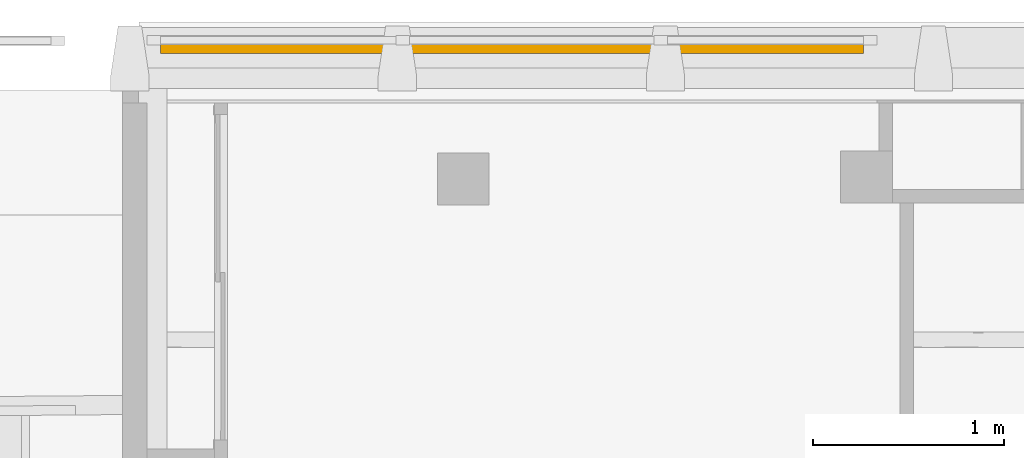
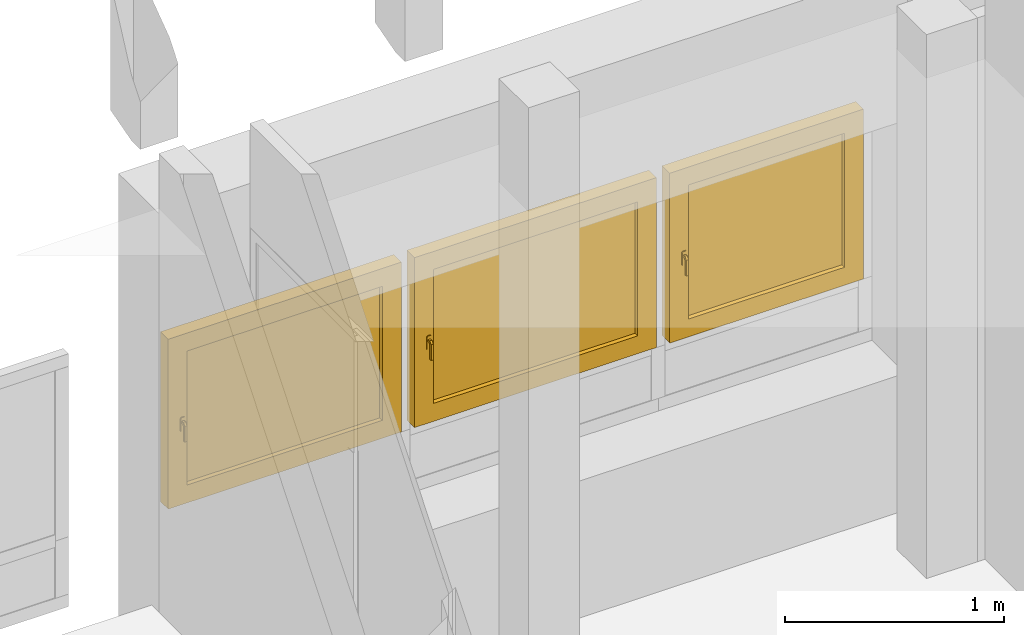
# One storey, part 53 of 65: 3 windows, 1 element without a shape of its own.
"""IFC4 building model written with IfcOpenShell, lengths in metres."""

from ifc_helpers import new_model, entity, si_unit, converted_unit, derived_unit, direction, frame, origin, place, context, subcontext, project, spatial, polygons, source, transform, mapped, material, material_list, constituent, constituent_set, type_object, type_shapes, element, aggregate, save


model = new_model("IFC4")

# Units and contexts
model_context = context("Model", 3, precision=1e-05, world=origin(), true_north=direction((6.12303176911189e-17, 1.0)))
body_context = subcontext(model_context, "Body", "Model", "MODEL_VIEW")
ifc_project = project(units=[si_unit("LENGTHUNIT", "METRE"), si_unit("AREAUNIT", "SQUARE_METRE"), si_unit("VOLUMEUNIT", "CUBIC_METRE"), converted_unit("PLANEANGLEUNIT", "DEGREE", entity("IfcRatioMeasure", 0.0174532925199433), si_unit("PLANEANGLEUNIT", "RADIAN"), dimensions=[0, 0, 0, 0, 0, 0, 0]), si_unit("MASSUNIT", "GRAM", prefix="KILO"), derived_unit("MASSDENSITYUNIT", [(si_unit("MASSUNIT", "GRAM", prefix="KILO"), 1), (si_unit("LENGTHUNIT", "METRE"), -3)]), derived_unit("MOMENTOFINERTIAUNIT", [(si_unit("LENGTHUNIT", "METRE"), 4)]), si_unit("TIMEUNIT", "SECOND"), si_unit("FREQUENCYUNIT", "HERTZ"), si_unit("THERMODYNAMICTEMPERATUREUNIT", "DEGREE_CELSIUS"), derived_unit("THERMALTRANSMITTANCEUNIT", [(si_unit("MASSUNIT", "GRAM", prefix="KILO"), 1), (si_unit("THERMODYNAMICTEMPERATUREUNIT", "KELVIN"), -1), (si_unit("TIMEUNIT", "SECOND"), -3)]), derived_unit("VOLUMETRICFLOWRATEUNIT", [(si_unit("LENGTHUNIT", "METRE"), 3), (si_unit("TIMEUNIT", "SECOND"), -1)]), si_unit("ELECTRICCURRENTUNIT", "AMPERE"), si_unit("ELECTRICVOLTAGEUNIT", "VOLT"), si_unit("POWERUNIT", "WATT"), si_unit("FORCEUNIT", "NEWTON", prefix="KILO"), si_unit("ILLUMINANCEUNIT", "LUX"), si_unit("LUMINOUSFLUXUNIT", "LUMEN"), si_unit("LUMINOUSINTENSITYUNIT", "CANDELA"), derived_unit("USERDEFINED", [(si_unit("MASSUNIT", "GRAM", prefix="KILO"), -1), (si_unit("LENGTHUNIT", "METRE"), -2), (si_unit("TIMEUNIT", "SECOND"), 3), (si_unit("LUMINOUSFLUXUNIT", "LUMEN"), 1)]), derived_unit("LINEARVELOCITYUNIT", [(si_unit("LENGTHUNIT", "METRE"), 1), (si_unit("TIMEUNIT", "SECOND"), -1)]), si_unit("PRESSUREUNIT", "PASCAL"), derived_unit("USERDEFINED", [(si_unit("LENGTHUNIT", "METRE"), -2), (si_unit("MASSUNIT", "GRAM", prefix="KILO"), 1), (si_unit("TIMEUNIT", "SECOND"), -2)]), derived_unit("LINEARFORCEUNIT", [(si_unit("MASSUNIT", "GRAM", prefix="KILO"), 1), (si_unit("LENGTHUNIT", "METRE"), 1), (si_unit("TIMEUNIT", "SECOND"), -2), (si_unit("LENGTHUNIT", "METRE"), -1)]), derived_unit("PLANARFORCEUNIT", [(si_unit("MASSUNIT", "GRAM", prefix="KILO"), 1), (si_unit("LENGTHUNIT", "METRE"), 1), (si_unit("TIMEUNIT", "SECOND"), -2), (si_unit("LENGTHUNIT", "METRE"), -2)])], contexts=[model_context])

# Site, building, storey
site_placement = place(None, origin())
site = spatial("IfcSite", under=ifc_project, at=site_placement, Name="Default", CompositionType="ELEMENT")
building_placement = place(site_placement, origin())
building = spatial("IfcBuilding", under=site, at=building_placement, Name="HOTEL CONSULAIRE BOULOGNE SUR MER", CompositionType="ELEMENT")
storey_placement = place(building_placement, origin())
storey = spatial("IfcBuildingStorey", under=building, at=storey_placement, Name="Niveau 0", CompositionType="ELEMENT", Elevation=1.31981936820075e-13)

# Curtain wall, windows
curtain_wall_type = type_object("IfcCurtainWallType", Name="Mur-rideau:Simple panneau", PredefinedType="NOTDEFINED")
curtain_wall_placement = place(storey_placement, origin())
curtain_wall = element("IfcCurtainWall", 1, at=curtain_wall_placement, inside=storey, type_object=curtain_wall_type, Name="Mur-rideau:Simple panneau", ObjectType="Mur-rideau:Simple panneau", PredefinedType="NOTDEFINED")
ifc_material_1 = material(Name="PVC - Blanc", Category="Plastique")
ifc_constituent_1 = constituent(ifc_material_1, Name="PVC - Blanc", Category="Matériaux")
ifc_material_2 = material(Name="Fenêtre - Vitrage", Category="Verre")
ifc_constituent_2 = constituent(ifc_material_2, Name="Fenêtre - Vitrage", Category="Matériaux")
ifc_constituent_set_1 = constituent_set(constituents=[ifc_constituent_1, ifc_constituent_2], Name="MaterialConstituentSet")
ifc_material_list_1 = material_list([ifc_material_1, ifc_material_1])
window_type_1 = type_object("IfcWindowType", Name="MR 1 Vantail:MR 1 Vantail", PartitioningType="NOTDEFINED", PredefinedType="WINDOW", material=ifc_material_list_1)
shared_shape_1 = source(origin(), body_context, "Body", "Tessellation", [
    polygons([(-0.545968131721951, -0.0492408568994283, 0.472033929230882), (-0.534676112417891, -0.0492408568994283, 0.472033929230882), (-0.533288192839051, -0.0492408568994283, 0.470646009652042), (-0.533288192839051, -0.0492408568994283, 0.459332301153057), (-0.534654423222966, -0.0492408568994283, 0.457966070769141), (-0.545989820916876, -0.0492408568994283, 0.457966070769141), (-0.547356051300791, -0.0492408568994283, 0.459332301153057), (-0.547356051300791, -0.0492408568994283, 0.470646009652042), (-0.547356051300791, -0.0615795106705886, 0.470646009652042), (-0.545968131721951, -0.0621544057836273, 0.472033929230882), (-0.547356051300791, -0.0568932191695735, 0.459332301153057), (-0.547356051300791, -0.0635731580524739, 0.452652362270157), (-0.547356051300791, -0.0635731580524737, 0.370000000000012), (-0.547356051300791, -0.0748868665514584, 0.370000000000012), (-0.547356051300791, -0.0748868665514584, 0.457338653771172), (-0.545989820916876, -0.0563273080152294, 0.457966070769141), (-0.534654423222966, -0.0563273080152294, 0.457966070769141), (-0.533288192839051, -0.0568932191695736, 0.459332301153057), (-0.533288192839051, -0.0615795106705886, 0.470646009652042), (-0.533288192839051, -0.0748868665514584, 0.457338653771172), (-0.533288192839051, -0.0748868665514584, 0.370000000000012), (-0.533288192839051, -0.063573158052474, 0.370000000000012), (-0.533288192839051, -0.0635731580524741, 0.452652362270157), (-0.534676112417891, -0.0621544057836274, 0.472033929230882), (-0.545968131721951, -0.0762747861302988, 0.457913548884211), (-0.545989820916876, -0.0622069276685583, 0.452086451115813), (-0.534654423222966, -0.0622069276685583, 0.452086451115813), (-0.534676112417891, -0.0762747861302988, 0.457913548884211), (-0.545968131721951, -0.0762747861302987, 0.370000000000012), (-0.545989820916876, -0.0622069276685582, 0.370000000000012), (-0.534654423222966, -0.0622069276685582, 0.370000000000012), (-0.534676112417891, -0.0762747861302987, 0.370000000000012)], [[[6, 7, 8, 1, 2, 3, 4, 5]], [[30, 26, 27, 31]], [[9, 10, 1, 8]], [[11, 12, 13, 14, 15, 9, 8, 7]], [[16, 11, 7, 6]], [[16, 6, 5, 17]], [[31, 22, 21, 32, 29, 14, 13, 30]], [[17, 5, 4, 18]], [[3, 19, 20, 21, 22, 23, 18, 4]], [[19, 3, 2, 24]], [[24, 2, 1, 10]], [[15, 25, 10, 9]], [[26, 12, 11, 16]], [[27, 26, 16, 17]], [[27, 17, 18, 23]], [[20, 19, 24, 28]], [[28, 24, 10, 25]], [[29, 25, 15, 14]], [[13, 12, 26, 30]], [[22, 31, 27, 23]], [[32, 21, 20, 28]], [[32, 28, 25, 29]]], closed=True),
    polygons([(-0.547322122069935, -0.0432408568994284, 0.490000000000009), (-0.53332212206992, -0.0432408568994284, 0.490000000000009), (-0.52832212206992, -0.0432408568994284, 0.48500000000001), (-0.52832212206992, -0.0432408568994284, 0.414999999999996), (-0.533322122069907, -0.0432408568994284, 0.410000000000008), (-0.547322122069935, -0.0432408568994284, 0.410000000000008), (-0.552322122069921, -0.0432408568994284, 0.414999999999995), (-0.552322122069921, -0.0432408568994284, 0.48500000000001), (-0.547322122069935, -0.0492408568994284, 0.490000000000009), (-0.552322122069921, -0.0492408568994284, 0.48500000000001), (-0.552322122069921, -0.0492408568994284, 0.414999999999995), (-0.547322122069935, -0.0492408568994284, 0.410000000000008), (-0.533322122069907, -0.0492408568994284, 0.410000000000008), (-0.52832212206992, -0.0492408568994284, 0.414999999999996), (-0.52832212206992, -0.0492408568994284, 0.48500000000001), (-0.53332212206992, -0.0492408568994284, 0.490000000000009)], [[[2, 3, 4, 5, 6, 7, 8, 1]], [[13, 14, 15, 16, 9, 10, 11, 12]], [[9, 1, 8, 10]], [[10, 8, 7, 11]], [[11, 7, 6, 12]], [[12, 6, 5, 13]], [[13, 5, 4, 14]], [[15, 14, 4, 3]], [[15, 3, 2, 16]], [[16, 2, 1, 9]]], closed=True),
    polygons([(0.515322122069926, -0.0192408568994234, 0.84826605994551), (-0.515322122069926, -0.0192408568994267, 0.84826605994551), (-0.515322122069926, -0.0192408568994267, 0.0999999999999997), (0.515322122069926, -0.0192408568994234, 0.0999999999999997), (0.515322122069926, -0.00724085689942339, 0.84826605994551), (0.515322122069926, -0.00724085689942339, 0.0999999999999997), (-0.515322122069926, -0.00724085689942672, 0.0999999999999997), (-0.515322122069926, -0.00724085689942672, 0.84826605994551)], [[[4, 1, 2, 3]], [[7, 8, 5, 6]], [[2, 1, 5, 8]], [[3, 2, 8, 7]], [[4, 3, 7, 6]], [[1, 4, 6, 5]]], closed=True),
    polygons([(-0.565322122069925, 0.0167591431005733, 0.89826605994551), (-0.565322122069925, -0.043240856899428, 0.89826605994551), (0.565322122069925, -0.043240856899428, 0.89826605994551), (0.565322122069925, 0.0167591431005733, 0.89826605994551), (-0.515322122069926, -0.043240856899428, 0.84826605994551), (-0.515322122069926, 0.0167591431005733, 0.84826605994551), (0.515322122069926, 0.0167591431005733, 0.84826605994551), (0.515322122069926, -0.043240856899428, 0.84826605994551), (0.565322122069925, -0.043240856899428, 0.0500000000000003), (0.565322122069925, 0.0167591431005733, 0.0500000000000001), (0.515322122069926, 0.0167591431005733, 0.0999999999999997), (0.515322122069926, -0.043240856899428, 0.0999999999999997), (-0.565322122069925, -0.043240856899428, 0.0500000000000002), (-0.565322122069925, 0.0167591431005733, 0.0500000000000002), (-0.515322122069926, 0.0167591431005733, 0.0999999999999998), (-0.515322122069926, -0.043240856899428, 0.0999999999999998)], [[[1, 2, 3, 4]], [[12, 11, 15, 16]], [[5, 6, 7, 8]], [[10, 9, 13, 14]], [[4, 3, 9, 10]], [[16, 15, 6, 5]], [[8, 7, 11, 12]], [[14, 13, 2, 1]], [[9, 3, 2, 13], [16, 5, 8, 12]], [[14, 1, 4, 10], [11, 7, 6, 15]]], closed=True),
    polygons([(-0.555322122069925, 0.016759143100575, 0.88826605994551), (-0.555322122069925, 0.0267591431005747, 0.88826605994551), (0.555322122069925, 0.0267591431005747, 0.88826605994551), (0.555322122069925, 0.016759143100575, 0.88826605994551), (-0.565322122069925, -0.0432408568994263, 0.89826605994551), (-0.565322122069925, 0.016759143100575, 0.89826605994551), (0.565322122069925, 0.016759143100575, 0.89826605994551), (0.565322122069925, -0.0432408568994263, 0.89826605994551), (-0.615322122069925, 0.0267591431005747, 0.94826605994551), (-0.615322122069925, -0.0432408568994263, 0.94826605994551), (0.615322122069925, -0.0432408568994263, 0.94826605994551), (0.615322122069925, 0.0267591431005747, 0.94826605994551), (0.555322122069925, 0.0267591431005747, 0.0600000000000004), (0.555322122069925, 0.016759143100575, 0.0600000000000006), (0.565322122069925, 0.016759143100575, 0.0500000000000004), (0.565322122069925, -0.0432408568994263, 0.0500000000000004), (0.615322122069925, -0.0432408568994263, 4.06075173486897e-16), (0.615322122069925, 0.0267591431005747, 4.06075173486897e-16), (-0.555322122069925, 0.0267591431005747, 0.0600000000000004), (-0.555322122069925, 0.016759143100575, 0.0600000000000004), (-0.565322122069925, 0.016759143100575, 0.0500000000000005), (-0.565322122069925, -0.0432408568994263, 0.0500000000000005), (-0.615322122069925, -0.0432408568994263, 4.06075173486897e-16), (-0.615322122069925, 0.0267591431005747, 4.06075173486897e-16)], [[[1, 2, 3, 4]], [[5, 6, 7, 8]], [[18, 17, 23, 24]], [[9, 10, 11, 12]], [[14, 13, 19, 20]], [[16, 15, 21, 22]], [[4, 3, 13, 14]], [[8, 7, 15, 16]], [[24, 23, 10, 9]], [[12, 11, 17, 18]], [[20, 19, 2, 1]], [[22, 21, 6, 5]], [[24, 9, 12, 18], [13, 3, 2, 19]], [[15, 7, 6, 21], [20, 1, 4, 14]], [[17, 11, 10, 23], [22, 5, 8, 16]]], closed=True),
])
type_shapes(window_type_1, [shared_shape_1])
window_1_placement = place(curtain_wall_placement, frame((-0.444101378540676, -9.84674446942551, 1.17273394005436)))
window_1 = element("IfcWindow", 2, at=window_1_placement, type_object=window_type_1, material=ifc_constituent_set_1, Name="MR 1 Vantail:MR 1 Vantail", ObjectType="MR 1 Vantail:MR 1 Vantail", OverallHeight=0.948266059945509, OverallWidth=1.23064424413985, PartitioningType="NOTDEFINED", PredefinedType="WINDOW", context=body_context, shape_type="MappedRepresentation", body=[
    mapped(shared_shape_1, transform((0.0, 0.0, 0.0), scale=1.0)),
])
ifc_constituent_3 = constituent(ifc_material_1, Name="PVC - Blanc", Category="Matériaux")
ifc_constituent_4 = constituent(ifc_material_2, Name="Fenêtre - Vitrage", Category="Matériaux")
ifc_constituent_set_2 = constituent_set(constituents=[ifc_constituent_3, ifc_constituent_4], Name="MaterialConstituentSet")
ifc_material_list_2 = material_list([ifc_material_1, ifc_material_1])
window_type_2 = type_object("IfcWindowType", Name="MR 1 Vantail:MR 1 Vantail", PartitioningType="NOTDEFINED", PredefinedType="WINDOW", material=ifc_material_list_2)
shared_shape_2 = source(origin(), body_context, "Body", "Tessellation", [
    polygons([(-0.56946813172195, -0.0492408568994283, 0.472033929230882), (-0.55817611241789, -0.0492408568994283, 0.472033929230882), (-0.55678819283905, -0.0492408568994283, 0.470646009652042), (-0.55678819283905, -0.0492408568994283, 0.459332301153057), (-0.558154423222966, -0.0492408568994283, 0.457966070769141), (-0.569489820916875, -0.0492408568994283, 0.457966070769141), (-0.570856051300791, -0.0492408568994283, 0.459332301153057), (-0.570856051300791, -0.0492408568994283, 0.470646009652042), (-0.570856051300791, -0.0615795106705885, 0.470646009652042), (-0.56946813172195, -0.0621544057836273, 0.472033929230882), (-0.570856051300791, -0.0568932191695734, 0.459332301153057), (-0.570856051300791, -0.0635731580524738, 0.452652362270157), (-0.570856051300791, -0.0635731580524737, 0.370000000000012), (-0.570856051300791, -0.0748868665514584, 0.370000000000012), (-0.570856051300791, -0.0748868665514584, 0.457338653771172), (-0.569489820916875, -0.0563273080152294, 0.457966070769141), (-0.558154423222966, -0.0563273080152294, 0.457966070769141), (-0.55678819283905, -0.0568932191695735, 0.459332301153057), (-0.55678819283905, -0.0615795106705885, 0.470646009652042), (-0.55678819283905, -0.0748868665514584, 0.457338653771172), (-0.55678819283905, -0.0748868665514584, 0.370000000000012), (-0.55678819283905, -0.0635731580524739, 0.370000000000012), (-0.55678819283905, -0.063573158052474, 0.452652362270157), (-0.55817611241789, -0.0621544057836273, 0.472033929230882), (-0.56946813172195, -0.0762747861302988, 0.457913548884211), (-0.569489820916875, -0.0622069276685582, 0.452086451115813), (-0.558154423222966, -0.0622069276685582, 0.452086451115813), (-0.55817611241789, -0.0762747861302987, 0.457913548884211), (-0.56946813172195, -0.0762747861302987, 0.370000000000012), (-0.569489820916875, -0.0622069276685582, 0.370000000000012), (-0.558154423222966, -0.0622069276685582, 0.370000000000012), (-0.55817611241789, -0.0762747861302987, 0.370000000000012)], [[[6, 7, 8, 1, 2, 3, 4, 5]], [[30, 26, 27, 31]], [[9, 10, 1, 8]], [[11, 12, 13, 14, 15, 9, 8, 7]], [[16, 11, 7, 6]], [[16, 6, 5, 17]], [[31, 22, 21, 32, 29, 14, 13, 30]], [[17, 5, 4, 18]], [[3, 19, 20, 21, 22, 23, 18, 4]], [[19, 3, 2, 24]], [[24, 2, 1, 10]], [[15, 25, 10, 9]], [[26, 12, 11, 16]], [[27, 26, 16, 17]], [[27, 17, 18, 23]], [[20, 19, 24, 28]], [[28, 24, 10, 25]], [[29, 25, 15, 14]], [[13, 12, 26, 30]], [[22, 31, 27, 23]], [[32, 21, 20, 28]], [[32, 28, 25, 29]]], closed=True),
    polygons([(-0.570822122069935, -0.0432408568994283, 0.490000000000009), (-0.556822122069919, -0.0432408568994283, 0.490000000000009), (-0.551822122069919, -0.0432408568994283, 0.48500000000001), (-0.551822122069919, -0.0432408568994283, 0.414999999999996), (-0.556822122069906, -0.0432408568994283, 0.410000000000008), (-0.570822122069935, -0.0432408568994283, 0.410000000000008), (-0.57582212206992, -0.0432408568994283, 0.414999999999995), (-0.57582212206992, -0.0432408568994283, 0.48500000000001), (-0.570822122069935, -0.0492408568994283, 0.490000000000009), (-0.57582212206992, -0.0492408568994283, 0.48500000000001), (-0.57582212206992, -0.0492408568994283, 0.414999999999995), (-0.570822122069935, -0.0492408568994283, 0.410000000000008), (-0.556822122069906, -0.0492408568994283, 0.410000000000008), (-0.551822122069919, -0.0492408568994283, 0.414999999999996), (-0.551822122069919, -0.0492408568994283, 0.48500000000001), (-0.556822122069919, -0.0492408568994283, 0.490000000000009)], [[[2, 3, 4, 5, 6, 7, 8, 1]], [[13, 14, 15, 16, 9, 10, 11, 12]], [[9, 1, 8, 10]], [[10, 8, 7, 11]], [[11, 7, 6, 12]], [[12, 6, 5, 13]], [[13, 5, 4, 14]], [[15, 14, 4, 3]], [[15, 3, 2, 16]], [[16, 2, 1, 9]]], closed=True),
    polygons([(0.538822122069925, -0.0192408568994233, 0.84826605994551), (-0.538822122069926, -0.0192408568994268, 0.84826605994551), (-0.538822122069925, -0.0192408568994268, 0.0999999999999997), (0.538822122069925, -0.0192408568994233, 0.0999999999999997), (0.538822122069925, -0.00724085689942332, 0.84826605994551), (0.538822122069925, -0.00724085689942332, 0.0999999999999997), (-0.538822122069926, -0.00724085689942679, 0.0999999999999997), (-0.538822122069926, -0.00724085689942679, 0.84826605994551)], [[[4, 1, 2, 3]], [[7, 8, 5, 6]], [[2, 1, 5, 8]], [[3, 2, 8, 7]], [[4, 3, 7, 6]], [[1, 4, 6, 5]]], closed=True),
    polygons([(-0.588822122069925, 0.0167591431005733, 0.89826605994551), (-0.588822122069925, -0.043240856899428, 0.89826605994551), (0.588822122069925, -0.043240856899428, 0.89826605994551), (0.588822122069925, 0.0167591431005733, 0.89826605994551), (-0.538822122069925, -0.043240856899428, 0.84826605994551), (-0.538822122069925, 0.0167591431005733, 0.84826605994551), (0.538822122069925, 0.0167591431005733, 0.84826605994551), (0.538822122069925, -0.043240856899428, 0.84826605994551), (0.588822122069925, -0.043240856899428, 0.0500000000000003), (0.588822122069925, 0.0167591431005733, 0.0500000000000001), (0.538822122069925, 0.0167591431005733, 0.0999999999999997), (0.538822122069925, -0.043240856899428, 0.0999999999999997), (-0.588822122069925, -0.043240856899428, 0.0500000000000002), (-0.588822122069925, 0.0167591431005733, 0.0500000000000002), (-0.538822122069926, 0.0167591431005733, 0.0999999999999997), (-0.538822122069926, -0.043240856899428, 0.0999999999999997)], [[[1, 2, 3, 4]], [[12, 11, 15, 16]], [[5, 6, 7, 8]], [[10, 9, 13, 14]], [[4, 3, 9, 10]], [[16, 15, 6, 5]], [[8, 7, 11, 12]], [[14, 13, 2, 1]], [[9, 3, 2, 13], [16, 5, 8, 12]], [[14, 1, 4, 10], [11, 7, 6, 15]]], closed=True),
    polygons([(-0.578822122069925, 0.016759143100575, 0.88826605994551), (-0.578822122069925, 0.0267591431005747, 0.88826605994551), (0.578822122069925, 0.0267591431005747, 0.88826605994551), (0.578822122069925, 0.016759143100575, 0.88826605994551), (-0.588822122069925, -0.0432408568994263, 0.89826605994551), (-0.588822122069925, 0.016759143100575, 0.89826605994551), (0.588822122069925, 0.016759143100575, 0.89826605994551), (0.588822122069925, -0.0432408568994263, 0.89826605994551), (-0.638822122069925, 0.0267591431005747, 0.94826605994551), (-0.638822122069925, -0.0432408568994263, 0.94826605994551), (0.638822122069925, -0.0432408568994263, 0.94826605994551), (0.638822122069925, 0.0267591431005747, 0.94826605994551), (0.578822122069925, 0.0267591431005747, 0.0600000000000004), (0.578822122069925, 0.016759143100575, 0.0600000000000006), (0.588822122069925, 0.016759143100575, 0.0500000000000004), (0.588822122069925, -0.0432408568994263, 0.0500000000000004), (0.638822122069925, -0.0432408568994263, 4.06075173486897e-16), (0.638822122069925, 0.0267591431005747, 4.06075173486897e-16), (-0.578822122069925, 0.0267591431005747, 0.0600000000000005), (-0.578822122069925, 0.016759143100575, 0.0600000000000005), (-0.588822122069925, 0.016759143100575, 0.0500000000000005), (-0.588822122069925, -0.0432408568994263, 0.0500000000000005), (-0.638822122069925, -0.0432408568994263, 4.06075173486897e-16), (-0.638822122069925, 0.0267591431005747, 4.06075173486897e-16)], [[[1, 2, 3, 4]], [[5, 6, 7, 8]], [[18, 17, 23, 24]], [[9, 10, 11, 12]], [[14, 13, 19, 20]], [[16, 15, 21, 22]], [[4, 3, 13, 14]], [[8, 7, 15, 16]], [[24, 23, 10, 9]], [[12, 11, 17, 18]], [[20, 19, 2, 1]], [[22, 21, 6, 5]], [[24, 9, 12, 18], [13, 3, 2, 19]], [[15, 7, 6, 21], [20, 1, 4, 14]], [[17, 11, 10, 23], [22, 5, 8, 16]]], closed=True),
])
type_shapes(window_type_2, [shared_shape_2])
window_2_placement = place(curtain_wall_placement, frame((0.880042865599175, -9.84674446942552, 1.17273394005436)))
window_2 = element("IfcWindow", 3, at=window_2_placement, type_object=window_type_2, material=ifc_constituent_set_2, Name="MR 1 Vantail:MR 1 Vantail", ObjectType="MR 1 Vantail:MR 1 Vantail", OverallHeight=0.948266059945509, OverallWidth=1.27764424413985, PartitioningType="NOTDEFINED", PredefinedType="WINDOW", context=body_context, shape_type="MappedRepresentation", body=[
    mapped(shared_shape_2, transform((0.0, 0.0, 0.0), scale=1.0)),
])
ifc_constituent_5 = constituent(ifc_material_1, Name="PVC - Blanc", Category="Matériaux")
ifc_constituent_6 = constituent(ifc_material_2, Name="Fenêtre - Vitrage", Category="Matériaux")
ifc_constituent_set_3 = constituent_set(constituents=[ifc_constituent_5, ifc_constituent_6], Name="MaterialConstituentSet")
ifc_material_list_3 = material_list([ifc_material_1, ifc_material_1])
window_type_3 = type_object("IfcWindowType", Name="MR 1 Vantail:MR 1 Vantail", PartitioningType="NOTDEFINED", PredefinedType="WINDOW", material=ifc_material_list_3)
shared_shape_3 = source(origin(), body_context, "Body", "Tessellation", [
    polygons([(-0.442146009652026, -0.0492408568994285, 0.472033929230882), (-0.430853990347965, -0.0492408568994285, 0.472033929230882), (-0.429466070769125, -0.0492408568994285, 0.470646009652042), (-0.429466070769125, -0.0492408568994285, 0.459332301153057), (-0.430832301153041, -0.0492408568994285, 0.457966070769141), (-0.44216769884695, -0.0492408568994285, 0.457966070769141), (-0.443533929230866, -0.0492408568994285, 0.459332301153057), (-0.443533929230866, -0.0492408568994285, 0.470646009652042), (-0.443533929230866, -0.0615795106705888, 0.470646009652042), (-0.442146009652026, -0.0621544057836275, 0.472033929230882), (-0.443533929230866, -0.0568932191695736, 0.459332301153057), (-0.443533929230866, -0.063573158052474, 0.452652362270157), (-0.443533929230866, -0.0635731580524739, 0.370000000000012), (-0.443533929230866, -0.0748868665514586, 0.370000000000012), (-0.443533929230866, -0.0748868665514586, 0.457338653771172), (-0.44216769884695, -0.0563273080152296, 0.457966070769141), (-0.430832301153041, -0.0563273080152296, 0.457966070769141), (-0.429466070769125, -0.0568932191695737, 0.459332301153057), (-0.429466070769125, -0.0615795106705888, 0.470646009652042), (-0.429466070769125, -0.0748868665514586, 0.457338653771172), (-0.429466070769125, -0.0748868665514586, 0.370000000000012), (-0.429466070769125, -0.0635731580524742, 0.370000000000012), (-0.429466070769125, -0.0635731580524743, 0.452652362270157), (-0.430853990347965, -0.0621544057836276, 0.472033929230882), (-0.442146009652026, -0.076274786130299, 0.457913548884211), (-0.44216769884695, -0.0622069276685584, 0.452086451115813), (-0.430832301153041, -0.0622069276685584, 0.452086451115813), (-0.430853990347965, -0.0762747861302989, 0.457913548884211), (-0.442146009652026, -0.0762747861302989, 0.370000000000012), (-0.44216769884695, -0.0622069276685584, 0.370000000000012), (-0.430832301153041, -0.0622069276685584, 0.370000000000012), (-0.430853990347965, -0.0762747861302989, 0.370000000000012)], [[[6, 7, 8, 1, 2, 3, 4, 5]], [[30, 26, 27, 31]], [[9, 10, 1, 8]], [[11, 12, 13, 14, 15, 9, 8, 7]], [[16, 11, 7, 6]], [[16, 6, 5, 17]], [[31, 22, 21, 32, 29, 14, 13, 30]], [[17, 5, 4, 18]], [[3, 19, 20, 21, 22, 23, 18, 4]], [[19, 3, 2, 24]], [[24, 2, 1, 10]], [[15, 25, 10, 9]], [[26, 12, 11, 16]], [[27, 26, 16, 17]], [[27, 17, 18, 23]], [[20, 19, 24, 28]], [[28, 24, 10, 25]], [[29, 25, 15, 14]], [[13, 12, 26, 30]], [[22, 31, 27, 23]], [[32, 21, 20, 28]], [[32, 28, 25, 29]]], closed=True),
    polygons([(-0.44350000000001, -0.0432408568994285, 0.490000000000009), (-0.429499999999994, -0.0432408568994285, 0.490000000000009), (-0.424499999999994, -0.0432408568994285, 0.48500000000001), (-0.424499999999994, -0.0432408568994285, 0.414999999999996), (-0.429499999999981, -0.0432408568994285, 0.410000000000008), (-0.44350000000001, -0.0432408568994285, 0.410000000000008), (-0.448499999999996, -0.0432408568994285, 0.414999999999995), (-0.448499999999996, -0.0432408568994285, 0.48500000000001), (-0.44350000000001, -0.0492408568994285, 0.490000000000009), (-0.448499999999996, -0.0492408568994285, 0.48500000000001), (-0.448499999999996, -0.0492408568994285, 0.414999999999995), (-0.44350000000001, -0.0492408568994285, 0.410000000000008), (-0.429499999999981, -0.0492408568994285, 0.410000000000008), (-0.424499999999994, -0.0492408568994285, 0.414999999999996), (-0.424499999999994, -0.0492408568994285, 0.48500000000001), (-0.429499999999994, -0.0492408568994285, 0.490000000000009)], [[[2, 3, 4, 5, 6, 7, 8, 1]], [[13, 14, 15, 16, 9, 10, 11, 12]], [[9, 1, 8, 10]], [[10, 8, 7, 11]], [[11, 7, 6, 12]], [[12, 6, 5, 13]], [[13, 5, 4, 14]], [[15, 14, 4, 3]], [[15, 3, 2, 16]], [[16, 2, 1, 9]]], closed=True),
    polygons([(0.4115, -0.0192408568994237, 0.84826605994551), (-0.411500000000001, -0.0192408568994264, 0.84826605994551), (-0.411500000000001, -0.0192408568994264, 0.0999999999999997), (0.4115, -0.0192408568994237, 0.0999999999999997), (0.4115, -0.00724085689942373, 0.84826605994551), (0.4115, -0.00724085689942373, 0.0999999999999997), (-0.411500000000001, -0.00724085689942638, 0.0999999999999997), (-0.411500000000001, -0.00724085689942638, 0.84826605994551)], [[[4, 1, 2, 3]], [[7, 8, 5, 6]], [[2, 1, 5, 8]], [[3, 2, 8, 7]], [[4, 3, 7, 6]], [[1, 4, 6, 5]]], closed=True),
    polygons([(-0.4615, 0.0167591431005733, 0.89826605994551), (-0.4615, -0.043240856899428, 0.89826605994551), (0.4615, -0.043240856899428, 0.89826605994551), (0.4615, 0.0167591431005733, 0.89826605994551), (-0.411500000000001, -0.043240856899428, 0.84826605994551), (-0.411500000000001, 0.0167591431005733, 0.84826605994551), (0.4115, 0.0167591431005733, 0.84826605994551), (0.4115, -0.043240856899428, 0.84826605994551), (0.4615, -0.043240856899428, 0.0500000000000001), (0.4615, 0.0167591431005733, 0.0500000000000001), (0.4115, 0.0167591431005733, 0.0999999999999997), (0.4115, -0.043240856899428, 0.0999999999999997), (-0.4615, -0.043240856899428, 0.0500000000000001), (-0.4615, 0.0167591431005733, 0.0500000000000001), (-0.411500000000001, 0.0167591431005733, 0.0999999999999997), (-0.411500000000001, -0.043240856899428, 0.0999999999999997)], [[[1, 2, 3, 4]], [[12, 11, 15, 16]], [[5, 6, 7, 8]], [[10, 9, 13, 14]], [[4, 3, 9, 10]], [[16, 15, 6, 5]], [[8, 7, 11, 12]], [[14, 13, 2, 1]], [[9, 3, 2, 13], [16, 5, 8, 12]], [[14, 1, 4, 10], [11, 7, 6, 15]]], closed=True),
    polygons([(-0.4515, 0.016759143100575, 0.88826605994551), (-0.4515, 0.0267591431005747, 0.88826605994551), (0.4515, 0.0267591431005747, 0.88826605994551), (0.4515, 0.016759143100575, 0.88826605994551), (-0.4615, -0.0432408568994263, 0.89826605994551), (-0.4615, 0.016759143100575, 0.89826605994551), (0.4615, 0.016759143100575, 0.89826605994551), (0.4615, -0.0432408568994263, 0.89826605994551), (-0.5115, 0.0267591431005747, 0.94826605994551), (-0.5115, -0.0432408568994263, 0.94826605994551), (0.5115, -0.0432408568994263, 0.94826605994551), (0.5115, 0.0267591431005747, 0.94826605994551), (0.4515, 0.0267591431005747, 0.0600000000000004), (0.4515, 0.016759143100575, 0.0600000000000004), (0.4615, 0.016759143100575, 0.0500000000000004), (0.4615, -0.0432408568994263, 0.0500000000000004), (0.5115, -0.0432408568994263, 4.06075173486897e-16), (0.5115, 0.0267591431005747, 4.06075173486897e-16), (-0.4515, 0.0267591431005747, 0.0600000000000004), (-0.4515, 0.016759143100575, 0.0600000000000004), (-0.4615, 0.016759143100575, 0.0500000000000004), (-0.4615, -0.0432408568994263, 0.0500000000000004), (-0.5115, -0.0432408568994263, 4.06075173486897e-16), (-0.5115, 0.0267591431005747, 4.06075173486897e-16)], [[[1, 2, 3, 4]], [[5, 6, 7, 8]], [[18, 17, 23, 24]], [[9, 10, 11, 12]], [[14, 13, 19, 20]], [[16, 15, 21, 22]], [[4, 3, 13, 14]], [[8, 7, 15, 16]], [[24, 23, 10, 9]], [[12, 11, 17, 18]], [[20, 19, 2, 1]], [[22, 21, 6, 5]], [[24, 9, 12, 18], [13, 3, 2, 19]], [[15, 7, 6, 21], [20, 1, 4, 14]], [[17, 11, 10, 23], [22, 5, 8, 16]]], closed=True),
])
type_shapes(window_type_3, [shared_shape_3])
window_3_placement = place(curtain_wall_placement, frame((2.1003649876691, -9.84674446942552, 1.17273394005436)))
window_3 = element("IfcWindow", 4, at=window_3_placement, type_object=window_type_3, material=ifc_constituent_set_3, Name="MR 1 Vantail:MR 1 Vantail", ObjectType="MR 1 Vantail:MR 1 Vantail", OverallHeight=0.948266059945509, OverallWidth=1.023, PartitioningType="NOTDEFINED", PredefinedType="WINDOW", context=body_context, shape_type="MappedRepresentation", body=[
    mapped(shared_shape_3, transform((0.0, 0.0, 0.0), scale=1.0)),
])
aggregate(curtain_wall, [window_1, window_2, window_3])

save(model, "model.ifc")
